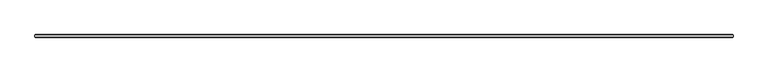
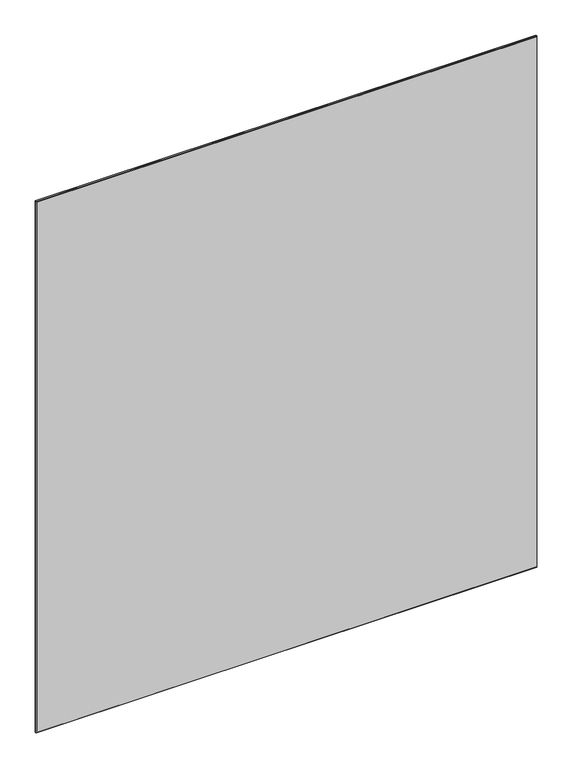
"""IFC4 building model written with IfcOpenShell, lengths in millimetres: plate geometry, 1-AMG-1-Панель одинарный витраж 8, 10 : Смещение 32 Толщина 8mm."""

from ifc_helpers import new_model, si_unit, origin, place, context, project, spatial, faceted_brep, source, transform, mapped, element, save


def plate_94507e9f(model_context):
    return source(origin(), model_context, "Body", "Brep", [
        faceted_brep([(913.9511719, 29.5038347, 2047.8976562), (913.9511719, 34.4961653, 2047.8976562), (-918.9511719, 34.4961653, 2047.8976562), (-918.9511719, 29.5038347, 2047.8976562), (913.9511719, 34.4961653, -7.0), (913.9511719, 29.5038347, -7.0), (-918.9511719, 29.5038347, -7.0), (-918.9511719, 34.4961653, -7.0), (-917.4473372, 36.0, 2046.3938215), (912.4473372, 36.0, 2046.3938215), (912.4473372, 36.0, -5.5039422), (-917.4473372, 36.0, -5.5039422), (912.4473372, 28.0, 2046.3938215), (-917.4473372, 28.0, 2046.3938215), (-917.4473372, 28.0, -5.4961653), (912.4473372, 28.0, -5.4961653)], [[[0, 1, 2, 3]], [[4, 5, 6, 7]], [[8, 9, 10, 11]], [[3, 2, 7, 6]], [[12, 13, 14, 15]], [[1, 0, 5, 4]], [[1, 4, 10, 9]], [[5, 0, 12, 15]], [[7, 2, 8, 11]], [[3, 6, 14, 13]], [[0, 3, 13, 12]], [[2, 1, 9, 8]], [[6, 5, 15, 14]], [[4, 7, 11, 10]]]),
    ])


if __name__ == "__main__":
    model = new_model("IFC4")
    model_context = context("Model", 3, world=origin())
    ifc_project = project(units=[si_unit("LENGTHUNIT", "METRE", prefix="MILLI")], contexts=[model_context])
    site = spatial("IfcSite", under=ifc_project)
    building = spatial("IfcBuilding", under=site)
    placement = place(None, origin())
    plate_shape = plate_94507e9f(model_context)
    element("IfcPlate", 1, ObjectType="1-AMG-1-Панель одинарный витраж 8, 10 : Смещение 32 Толщина 8mm", at=placement, inside=building, context=model_context, shape_type="MappedRepresentation", body=[
        mapped(plate_shape, transform((0.0, 0.0, 0.0), x_axis=(1.0, 0.0, 0.0), y_axis=(0.0, 1.0, 0.0), z_axis=(0.0, 0.0, 1.0))),
    ])
    save(model, "model.ifc")
